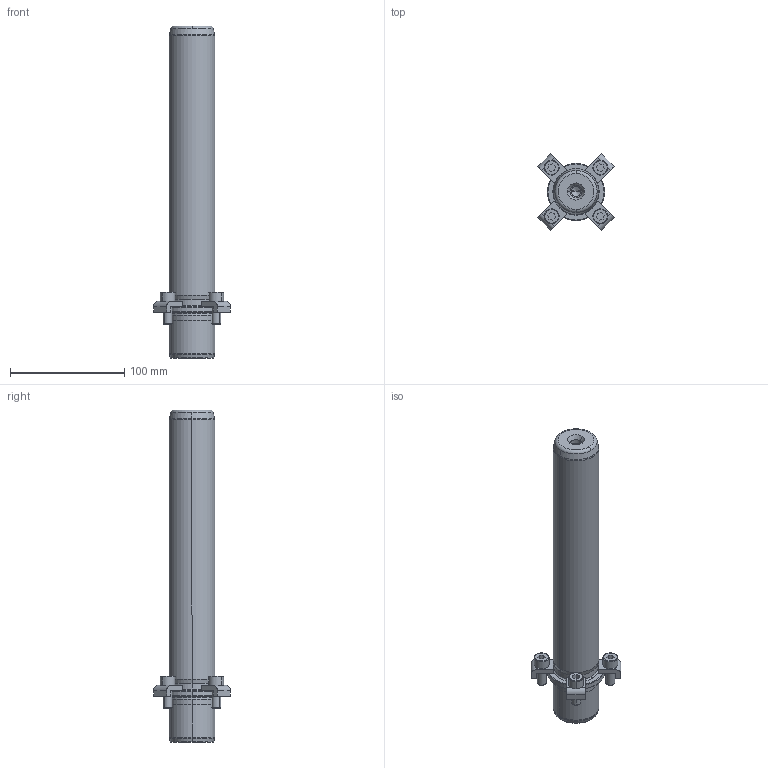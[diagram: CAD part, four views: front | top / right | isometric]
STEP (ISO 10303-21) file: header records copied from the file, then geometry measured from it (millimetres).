
FILE_DESCRIPTION((''),'2;1');
FILE_NAME('P21_040_250.stp','2008-12-23T11:27:07',(''),(''),'Mechanical Desktop 2009','Mechanical Desktop 2009',', , ');
FILE_SCHEMA(('CONFIG_CONTROL_DESIGN'));
Length unit declared in the file: millimetre
Products named in the file (2): Product; blmdl1
Assembly tree (1 placements, depth 2):
  Product
    blmdl1
Bounding box: 66.82 x 66.82 x 290 mm (x, y, z)
Volume: 374557.4 mm3; surface area: 50709.7 mm2
Topology: 9 solids, 9 shells, 203 faces, 501 edges, 325 vertices
Faces by surface type: plane 81, cylinder 56, cone 34, torus 16, bspline 16
Entity records: 6819 total; most frequent: CARTESIAN_POINT 1731, DIRECTION 1126, ORIENTED_EDGE 994, EDGE_CURVE 497, AXIS2_PLACEMENT_3D 440, VERTEX_POINT 325, CIRCLE 251, VECTOR 246
